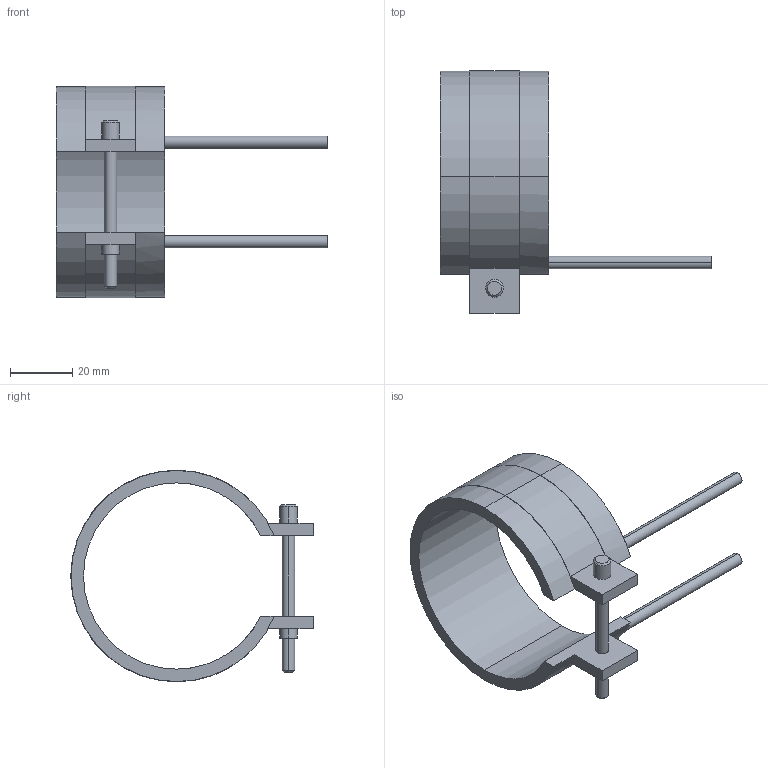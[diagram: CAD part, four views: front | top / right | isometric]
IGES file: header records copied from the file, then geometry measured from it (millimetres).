
Start section: START RECORD GO HERE.
Global section: file name: 14060035.igs; native system: DASSAULT SYSTEMES CATIA V5 R20 - www.3ds.com; preprocessor: CATIA Version 5 Release 20 ; author: Utente; organization: NB04-ASUS; date: 20210401.113919; units: millimetre
Bounding box: 87.5 x 78.1 x 68.2 mm (x, y, z)
Surface area: 16921.5 mm2 (no closed solid volume)
Topology: 0 solids, 0 shells, 45 faces, 232 edges, 232 vertices
Faces by surface type: revolution 28, plane 17
